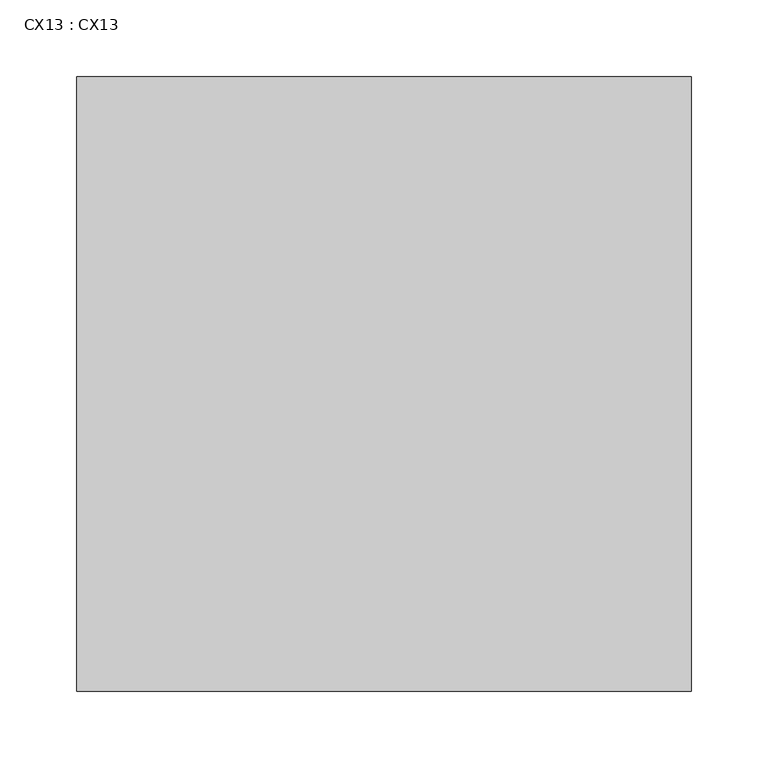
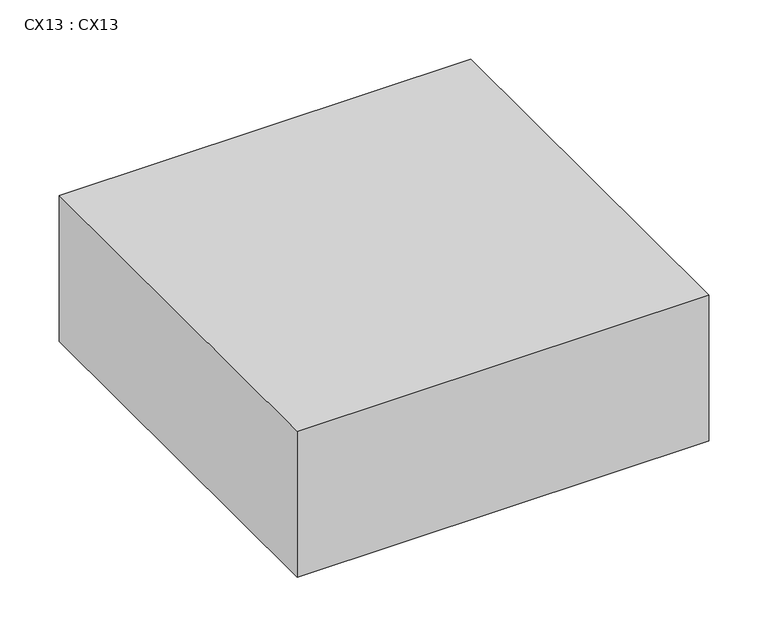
"""IFC4 building model written with IfcOpenShell, lengths in millimetres: proxy geometry, CX13 : CX13."""

from ifc_helpers import new_model, si_unit, frame, origin, place, context, project, spatial, polyline, outline, extrude, source, transform, mapped, element, save


def cx13_cx13_dae75fb6(model_context):
    return source(origin(), model_context, "Body", "SweptSolid", [
        extrude(outline(polyline([(22021.2, 14966.3), (22421.2, 14966.3), (22421.2, 14566.3), (22021.2, 14566.3), (22021.2, 14966.3)])), frame((0.0, 0.0, 2870.0), z_axis=(0.0, 0.0, 1.0), x_axis=(1.0, 0.0, 0.0)), (0.0, 0.0, 1.0), 150.0),
    ])


if __name__ == "__main__":
    model = new_model("IFC4")
    model_context = context("Model", 3, world=origin())
    ifc_project = project(units=[si_unit("LENGTHUNIT", "METRE", prefix="MILLI")], contexts=[model_context])
    site = spatial("IfcSite", under=ifc_project)
    building = spatial("IfcBuilding", under=site)
    placement = place(None, origin())
    cx13_cx13_shape = cx13_cx13_dae75fb6(model_context)
    element("IfcBuildingElementProxy", 1, Name="CX13 : CX13", ObjectType="CX13 : CX13", at=placement, inside=building, context=model_context, shape_type="MappedRepresentation", body=[
        mapped(cx13_cx13_shape, transform((0.0, 0.0, 0.0), x_axis=(1.0, 0.0, 0.0), y_axis=(0.0, 1.0, 0.0), z_axis=(0.0, 0.0, 1.0))),
    ])
    save(model, "model.ifc")
